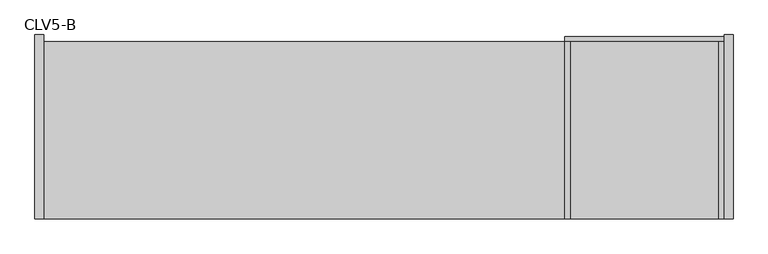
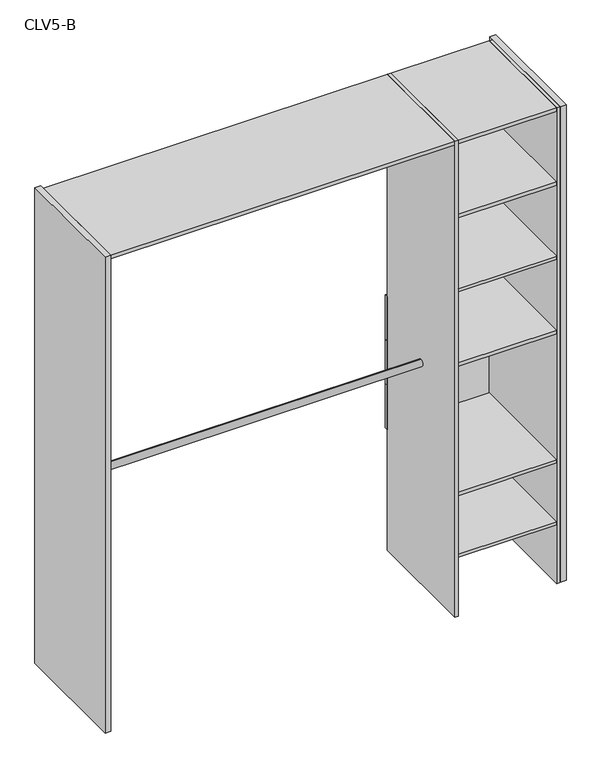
"""IFC4 building model written with IfcOpenShell, lengths in millimetres: furniture geometry, Closet 1estantes-1tubos_2 laterales : CLV5-B."""

import ifcopenshell
import ifcopenshell.guid

model = None  # the IFC model being written
_history = None  # IfcOwnerHistory: only IFC2X3 demands one
_inside = {}  # id of a spatial element -> (the spatial element, [elements in it])
_under = {}  # id of a project, library or spatial element -> (it, [spatial elements below it])
_declared = {}  # id of a project -> (the project, [libraries it declares])
_typed = {}  # id of a type object -> (the type object, [elements of that type])
_made_of = {}  # id of a material, layer set ... -> (it, [elements and type objects made of it])


def new_model(schema):
    """Start an empty IFC model of exactly this schema.

    Asked for "IFC4X3", IfcOpenShell would pick the latest addendum, in which some entities
    have other attributes; the version numbers below select the first issue.
    IFC2X3 requires an IfcOwnerHistory on every rooted entity: one is made here for all.
    """
    global model, _history
    if schema == "IFC4X3":
        model = ifcopenshell.file(schema_version=(4, 3, 0, 0))
    else:
        model = ifcopenshell.file(schema=schema)
    _inside.clear()
    _under.clear()
    _declared.clear()
    _typed.clear()
    _made_of.clear()
    _history = None
    if model.schema == "IFC2X3":
        org = make("IfcOrganization", Name="unknown")
        user = make(
            "IfcPersonAndOrganization",
            ThePerson=make("IfcPerson", FamilyName="unknown"),
            TheOrganization=org,
        )
        app = make(
            "IfcApplication",
            ApplicationDeveloper=org,
            Version="unknown",
            ApplicationFullName="unknown",
            ApplicationIdentifier="unknown",
        )
        _history = make(
            "IfcOwnerHistory",
            OwningUser=user,
            OwningApplication=app,
            ChangeAction="ADDED",
            CreationDate=0,
        )
    return model


def make(cls, **values):
    """One entity of the class cls with the attributes given. An attribute that is None is left unset."""
    return model.create_entity(
        cls, **{name: value for name, value in values.items() if value is not None}
    )


def rooted(cls, **values):
    """An entity with a GlobalId (a new one), such as an element, a storey or a relation."""
    return make(cls, GlobalId=ifcopenshell.guid.new(), OwnerHistory=_history, **values)


def si_unit(unit_type, name, prefix=None):
    """IfcSIUnit, for example si_unit("LENGTHUNIT", "METRE", prefix="MILLI")."""
    return make("IfcSIUnit", UnitType=unit_type, Prefix=prefix, Name=name)


def assignment(units):
    """IfcUnitAssignment: the units of a project."""
    return None if units is None else make("IfcUnitAssignment", Units=units)


def point(xyz):
    """IfcCartesianPoint."""
    return None if xyz is None else make("IfcCartesianPoint", Coordinates=xyz)


def direction(xyz):
    """IfcDirection."""
    return None if xyz is None else make("IfcDirection", DirectionRatios=xyz)


def frame(location, z_axis=None, x_axis=None):
    """IfcAxis2Placement3D, a coordinate frame: its origin and axes. An axis left out is left unset."""
    return make(
        "IfcAxis2Placement3D",
        Location=point(location),
        Axis=direction(z_axis),
        RefDirection=direction(x_axis),
    )


def frame_2d(location, x_axis=None):
    """IfcAxis2Placement2D, a coordinate frame in the plane: its origin and x axis."""
    return make(
        "IfcAxis2Placement2D", Location=point(location), RefDirection=direction(x_axis)
    )


def origin():
    """The frame at (0, 0, 0) with its axes left unset."""
    return frame((0.0, 0.0, 0.0))


def origin_with_axes():
    """The frame at (0, 0, 0) with the z axis (0, 0, 1) and the x axis (1, 0, 0) written out."""
    return frame((0.0, 0.0, 0.0), z_axis=(0.0, 0.0, 1.0), x_axis=(1.0, 0.0, 0.0))


def place(relative_to, where):
    """IfcLocalPlacement: puts the frame where relative to a parent placement (None: the world)."""
    return make(
        "IfcLocalPlacement", PlacementRelTo=relative_to, RelativePlacement=where
    )


def context(
    kind, dimensions, precision=None, world=None, true_north=None, identifier=None
):
    """IfcGeometricRepresentationContext, for example the 3D "Model" context."""
    return make(
        "IfcGeometricRepresentationContext",
        ContextIdentifier=identifier,
        ContextType=kind,
        CoordinateSpaceDimension=dimensions,
        Precision=precision,
        WorldCoordinateSystem=world,
        TrueNorth=true_north,
    )


def project(units=None, contexts=None):
    """IfcProject with its units and contexts."""
    return rooted(
        "IfcProject",
        Name="project",
        RepresentationContexts=contexts,
        UnitsInContext=assignment(units),
    )


def spatial(cls, under=None, at=None, **own):
    """A site, building, storey or space (cls), placed at a placement, below another one or the project."""
    s = rooted(cls, ObjectPlacement=at, **own)
    if under is not None:
        _under.setdefault(under.id(), (under, []))[1].append(s)
    return s


def polyline(points):
    """IfcPolyline through the points."""
    return make("IfcPolyline", Points=[point(p) for p in points])


def circle_curve(where, radius):
    """IfcCircle in the frame where."""
    return make("IfcCircle", Position=where, Radius=radius)


def trimmed(basis, trim1, trim2, sense, master):
    """IfcTrimmedCurve: the piece of a basis curve between two trims."""
    return make(
        "IfcTrimmedCurve",
        BasisCurve=basis,
        Trim1=trim1,
        Trim2=trim2,
        SenseAgreement=sense,
        MasterRepresentation=master,
    )


def segment(curve, same_sense, transition):
    """IfcCompositeCurveSegment."""
    return make(
        "IfcCompositeCurveSegment",
        Transition=transition,
        SameSense=same_sense,
        ParentCurve=curve,
    )


def composite_curve(segments, self_intersect=None):
    """IfcCompositeCurve: segments joined end to end."""
    return make("IfcCompositeCurve", Segments=segments, SelfIntersect=self_intersect)


def outline(outer, holes=None, kind="AREA"):
    """IfcArbitraryClosedProfileDef: a profile drawn as a closed curve; with holes, ...WithVoids."""
    if holes is None:
        return make("IfcArbitraryClosedProfileDef", ProfileType=kind, OuterCurve=outer)
    return make(
        "IfcArbitraryProfileDefWithVoids",
        ProfileType=kind,
        OuterCurve=outer,
        InnerCurves=holes,
    )


def extrude(swept, where, along, depth):
    """IfcExtrudedAreaSolid: the profile swept, set in the frame where, extruded along a direction by depth."""
    return make(
        "IfcExtrudedAreaSolid",
        SweptArea=swept,
        Position=where,
        ExtrudedDirection=direction(along),
        Depth=depth,
    )


def shape(context_of_items, identifier, shape_type, items):
    """IfcShapeRepresentation: the items that make up one representation, for example the "Body"."""
    return make(
        "IfcShapeRepresentation",
        ContextOfItems=context_of_items,
        RepresentationIdentifier=identifier,
        RepresentationType=shape_type,
        Items=items,
    )


def source(mapping_origin, context_of_items, identifier, shape_type, items):
    """IfcRepresentationMap: a shape defined once, which mapped items show again and again."""
    return make(
        "IfcRepresentationMap",
        MappingOrigin=mapping_origin,
        MappedRepresentation=shape(context_of_items, identifier, shape_type, items),
    )


def transform(
    local_origin,
    x_axis=None,
    y_axis=None,
    z_axis=None,
    scale=None,
    scale2=None,
    scale3=None,
    uniform=True,
):
    """IfcCartesianTransformationOperator3D, or its non-uniform kind. x_axis, y_axis, z_axis: its Axis1, 2, 3."""
    if uniform:
        return make(
            "IfcCartesianTransformationOperator3D",
            Axis1=direction(x_axis),
            Axis2=direction(y_axis),
            LocalOrigin=point(local_origin),
            Scale=scale,
            Axis3=direction(z_axis),
        )
    return make(
        "IfcCartesianTransformationOperator3DnonUniform",
        Axis1=direction(x_axis),
        Axis2=direction(y_axis),
        LocalOrigin=point(local_origin),
        Scale=scale,
        Axis3=direction(z_axis),
        Scale2=scale2,
        Scale3=scale3,
    )


def mapped(mapping_source, mapping_target):
    """IfcMappedItem: shows the shape of a source again, moved by a transform."""
    return make(
        "IfcMappedItem", MappingSource=mapping_source, MappingTarget=mapping_target
    )


def made_of(thing, what):
    """Note that an element or type object is made of a material, layer set ...; save() writes the relation."""
    if what is not None:
        _made_of.setdefault(what.id(), (what, []))[1].append(thing)
    return thing


def element(
    cls,
    number,
    at=None,
    inside=None,
    cuts=None,
    type_object=None,
    material=None,
    context=None,
    identifier="Body",
    shape_type=None,
    held_by="IfcProductDefinitionShape",
    body=None,
    shapes=None,
    **own,
):
    """One element of the class cls, such as IfcWall. Its Tag is "e" and its number.

    at: its placement. inside: the storey or other place that contains it. cuts: it is an
    opening in that element (IfcRelVoidsElement). A single representation is given by context,
    identifier, shape_type and body (its items); several are given by shapes. held_by: the class
    of the entity that holds the representations. save() writes the other relations.
    """
    e = rooted(cls, Tag="e%d" % number, ObjectPlacement=at, **own)
    if body is not None:
        shapes = [shape(context, identifier, shape_type, body)]
    if shapes is not None:
        e.Representation = make(held_by, Representations=shapes)
    if inside is not None:
        _inside.setdefault(inside.id(), (inside, []))[1].append(e)
    if cuts is not None:
        rooted(
            "IfcRelVoidsElement", RelatingBuildingElement=cuts, RelatedOpeningElement=e
        )
    if type_object is not None:
        _typed.setdefault(type_object.id(), (type_object, []))[1].append(e)
    return made_of(e, material)


def aggregate(whole, parts):
    """IfcRelAggregates: a whole, such as a stair, and the parts it consists of."""
    return rooted("IfcRelAggregates", RelatingObject=whole, RelatedObjects=parts)


def save(model, path):
    """Write the relations noted so far, then the file.

    IfcRelAggregates (storeys below a building ...), IfcRelContainedInSpatialStructure (elements
    in a storey), IfcRelDefinesByType, IfcRelAssociatesMaterial and IfcRelDeclares: one each for
    every whole, place, type object, material and project.
    """
    for whole, parts in _under.values():
        aggregate(whole, parts)
    for where, things in _inside.values():
        rooted(
            "IfcRelContainedInSpatialStructure",
            RelatedElements=things,
            RelatingStructure=where,
        )
    for kind, things in _typed.values():
        rooted("IfcRelDefinesByType", RelatedObjects=things, RelatingType=kind)
    for what, things in _made_of.values():
        rooted("IfcRelAssociatesMaterial", RelatedObjects=things, RelatingMaterial=what)
    for by, libraries in _declared.values():
        rooted("IfcRelDeclares", RelatingContext=by, RelatedDefinitions=libraries)
    model.write(path)


def clv5_b_f07835bf(model_context):
    return source(origin(), model_context, "Body", "SweptSolid", [
        extrude(outline(polyline([(-1694.8584004, -80.0), (-1694.8584004, -600.0), (-1719.8584004, -600.0), (-1719.8584004, -80.0), (-1694.8584004, -80.0)])), origin_with_axes(), (0.0, 0.0, 1.0), 2150.0),
        extrude(outline(polyline([(250.0, -80.0), (250.0, -600.0), (225.0, -600.0), (225.0, -80.0), (250.0, -80.0)])), origin_with_axes(), (0.0, 0.0, 1.0), 2150.0),
        extrude(outline(polyline([(225.0, -100.0), (225.0, -600.0), (210.0, -600.0), (210.0, -100.0), (225.0, -100.0)])), origin_with_axes(), (0.0, 0.0, 1.0), 2150.0),
        extrude(outline(polyline([(-210.0, -100.0), (-210.0, -600.0), (-225.0, -600.0), (-225.0, -100.0), (-210.0, -100.0)])), origin_with_axes(), (0.0, 0.0, 1.0), 2150.0),
        extrude(outline(polyline([(225.0, -100.0), (-225.0, -100.0), (-225.0, -85.0), (225.0, -85.0), (225.0, -100.0)])), frame((0.0, 0.0, 945.0), z_axis=(0.0, 0.0, 1.0), x_axis=(1.0, 0.0, 0.0)), (0.0, 0.0, 1.0), 200.0),
        extrude(outline(polyline([(225.0, -100.0), (-225.0, -100.0), (-225.0, -85.0), (225.0, -85.0), (225.0, -100.0)])), frame((0.0, 0.0, 745.0), z_axis=(0.0, 0.0, 1.0), x_axis=(1.0, 0.0, 0.0)), (0.0, 0.0, 1.0), 200.0),
        extrude(outline(polyline([(225.0, -100.0), (-225.0, -100.0), (-225.0, -85.0), (225.0, -85.0), (225.0, -100.0)])), frame((0.0, 0.0, 545.0), z_axis=(0.0, 0.0, 1.0), x_axis=(1.0, 0.0, 0.0)), (0.0, 0.0, 1.0), 200.0),
        extrude(outline(polyline([(210.0, -100.0), (210.0, -600.0), (-210.0, -600.0), (-210.0, -100.0), (210.0, -100.0)])), frame((0.0, 0.0, 1130.0), z_axis=(0.0, 0.0, 1.0), x_axis=(1.0, 0.0, 0.0)), (0.0, 0.0, 1.0), 15.0),
        extrude(outline(composite_curve([segment(trimmed(circle_curve(frame_2d((-350.0, 1000.0)), 15.0), [point((-350.0, 1015.0))], [point((-350.0, 985.0))], False, "CARTESIAN"), True, "CONTINUOUS"), segment(trimmed(circle_curve(frame_2d((-350.0, 1000.0)), 15.0), [point((-350.0, 985.0))], [point((-350.0, 1015.0))], False, "CARTESIAN"), True, "CONTINUOUS")], self_intersect=False)), frame((-1694.8584004, 0.0, 0.0), z_axis=(1.0, 0.0, 0.0), x_axis=(0.0, 1.0, 0.0)), (0.0, 0.0, 1.0), 1469.8584004),
        extrude(outline(composite_curve([segment(trimmed(circle_curve(frame_2d((-350.0, 2000.0)), 15.0), [point((-350.0, 2015.0))], [point((-350.0, 1985.0))], False, "CARTESIAN"), True, "CONTINUOUS"), segment(trimmed(circle_curve(frame_2d((-350.0, 2000.0)), 15.0), [point((-350.0, 1985.0))], [point((-350.0, 2015.0))], False, "CARTESIAN"), True, "CONTINUOUS")], self_intersect=False)), frame((-1694.8584004, 0.0, 0.0), z_axis=(1.0, 0.0, 0.0), x_axis=(0.0, 1.0, 0.0)), (0.0, 0.0, 1.0), 1469.8584004),
        extrude(outline(polyline([(210.0, -100.0), (210.0, -600.0), (-210.0, -600.0), (-210.0, -100.0), (210.0, -100.0)])), frame((0.0, 0.0, 265.0), z_axis=(0.0, 0.0, 1.0), x_axis=(1.0, 0.0, 0.0)), (0.0, 0.0, 1.0), 15.0),
        extrude(outline(polyline([(210.0, -100.0), (210.0, -600.0), (-210.0, -600.0), (-210.0, -100.0), (210.0, -100.0)])), frame((0.0, 0.0, 545.0), z_axis=(0.0, 0.0, 1.0), x_axis=(1.0, 0.0, 0.0)), (0.0, 0.0, 1.0), 15.0),
        extrude(outline(polyline([(210.0, -100.0), (210.0, -600.0), (-210.0, -600.0), (-210.0, -100.0), (210.0, -100.0)])), frame((0.0, 0.0, 1465.0), z_axis=(0.0, 0.0, 1.0), x_axis=(1.0, 0.0, 0.0)), (0.0, 0.0, 1.0), 15.0),
        extrude(outline(polyline([(210.0, -100.0), (210.0, -600.0), (-210.0, -600.0), (-210.0, -100.0), (210.0, -100.0)])), frame((0.0, 0.0, 1800.0), z_axis=(0.0, 0.0, 1.0), x_axis=(1.0, 0.0, 0.0)), (0.0, 0.0, 1.0), 15.0),
        extrude(outline(polyline([(-210.0, -100.0), (-210.0, -600.0), (-1694.8584004, -600.0), (-1694.8584004, -100.0), (-210.0, -100.0)])), frame((0.0, 0.0, 2135.0), z_axis=(0.0, 0.0, 1.0), x_axis=(1.0, 0.0, 0.0)), (0.0, 0.0, 1.0), 15.0),
        extrude(outline(polyline([(210.0, -100.0), (210.0, -600.0), (-210.0, -600.0), (-210.0, -100.0), (210.0, -100.0)])), frame((0.0, 0.0, 2135.0), z_axis=(0.0, 0.0, 1.0), x_axis=(1.0, 0.0, 0.0)), (0.0, 0.0, 1.0), 15.0),
    ])


if __name__ == "__main__":
    model = new_model("IFC4")
    model_context = context("Model", 3, world=origin())
    ifc_project = project(units=[si_unit("LENGTHUNIT", "METRE", prefix="MILLI")], contexts=[model_context])
    site = spatial("IfcSite", under=ifc_project)
    building = spatial("IfcBuilding", under=site)
    placement = place(None, origin())
    clv5_b_shape = clv5_b_f07835bf(model_context)
    element("IfcFurniture", 1, ObjectType="Closet 1estantes-1tubos_2 laterales : CLV5-B", at=placement, inside=building, context=model_context, shape_type="MappedRepresentation", body=[
        mapped(clv5_b_shape, transform((0.0, 0.0, 0.0), x_axis=(1.0, 0.0, 0.0), y_axis=(0.0, 1.0, 0.0), z_axis=(0.0, 0.0, 1.0))),
    ])
    save(model, "model.ifc")
